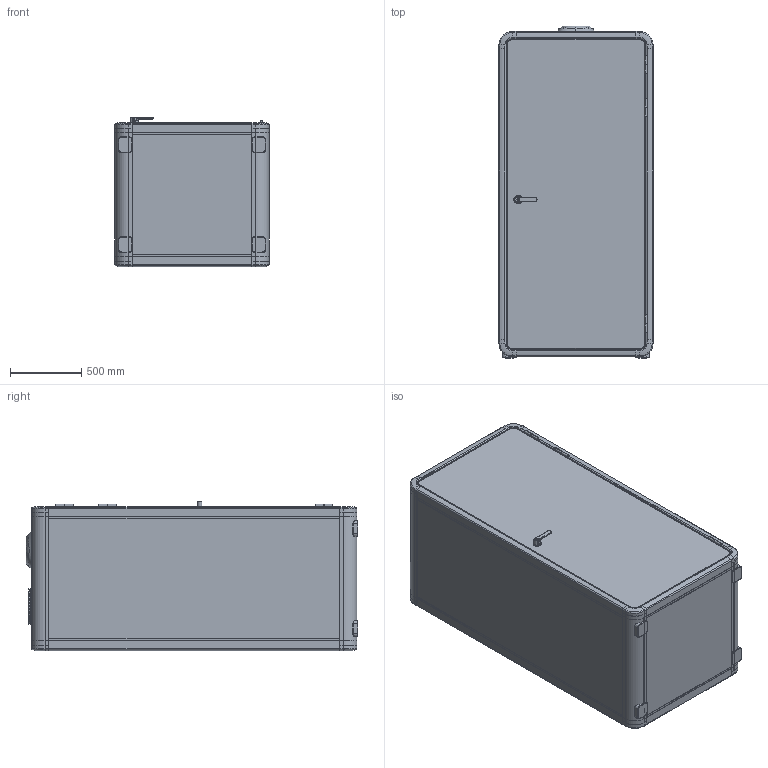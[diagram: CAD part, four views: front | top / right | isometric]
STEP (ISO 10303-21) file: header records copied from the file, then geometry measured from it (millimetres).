
FILE_DESCRIPTION (( 'STEP AP203' ), '1' );
FILE_NAME ('S-all.STEP', '2023-08-06T02:32:34', ( '微软用户' ), ( '微软中国' ), 'SwSTEP 2.0', 'SolidWorks 2018', '' );
FILE_SCHEMA (( 'CONFIG_CONTROL_DESIGN' ));
Length unit declared in the file: millimetre
Products named in the file (34): Vent; Wireless charge; 俋參忒; 4-200001_1; S-Bench; 202_ASM0001_ASM; 鬥脰撓菁攫+盓殤; hip rest; ぇ陑袤階攫; 50100_ASM_2_ASM; Knob controller; 250fan; 勘眛; 103000_2_1; 2020002_2_1; 4-200002_1; _6-27_3_1; socket; ZSP_5_4_4; 2-SST_2_4; 20200_ASM_ASM_1_ASM; YYD-YX-H_3_4; Handle lock; S-body; ぇ陑鬥脰撓袤啣; YYD-YX-Q_3_5; IR sensor; ぇ陑脰撓蚾饜; Fan cover; ASM0002_ASM_1_ASM_11_ASM_7_ASM; 720lamp; 20200_ASM_2_ASM_1_ASM; 39200_3; S-all
Assembly tree (34 placements, depth 6):
  S-all
    S-body
    Knob controller
    socket
    Wireless charge
    720lamp
    Handle lock
      50100_ASM_2_ASM
        ASM0002_ASM_1_ASM_11_ASM_7_ASM
          ZSP_5_4_4
          2-SST_2_4
      YYD-YX-H_3_4
      4-200002_1
      39200_3
      202_ASM0001_ASM
        20200_ASM_ASM_1_ASM
          20200_ASM_2_ASM_1_ASM
            103000_2_1
            _6-27_3_1
            2020002_2_1
      俋參忒
        YYD-YX-Q_3_5
        4-200001_1
    Fan cover
    IR sensor
    Vent  x2
    hip rest
    S-Bench
    ぇ陑脰撓蚾饜
      鬥脰撓菁攫+盓殤
      ぇ陑鬥脰撓袤啣
      ぇ陑袤階攫
    250fan
    勘眛
Bounding box: 1080 x 2326 x 1047.2 mm (x, y, z)
Volume: 680557502.8 mm3; surface area: 48114509.2 mm2
Topology: 89 solids, 98 shells, 3537 faces, 8337 edges, 4934 vertices
Faces by surface type: plane 1428, cylinder 1146, bspline 434, torus 328, cone 115, sphere 86
Entity records: 177881 total; most frequent: CARTESIAN_POINT 98044, ORIENTED_EDGE 16014, DIRECTION 15646, EDGE_CURVE 8009, AXIS2_PLACEMENT_3D 5703, VERTEX_POINT 4808, VECTOR 4240, LINE 4240
